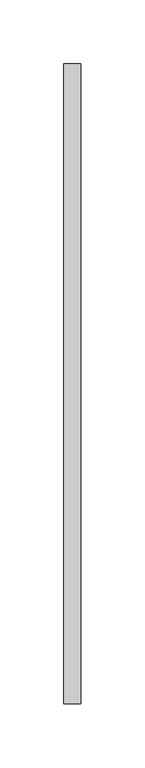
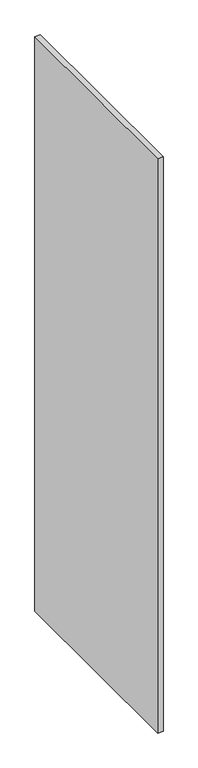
"""IFC4 building model written with IfcOpenShell, lengths in millimetres: furniture geometry, Lockers-Bay-Duracube-Duraloc : LWM-1900h x 500d x 400w @ 470h Wall."""

from ifc_helpers import new_model, si_unit, frame, origin, place, context, project, spatial, polyline, outline, extrude, source, transform, mapped, element, save


def furniture_8214ae09(model_context):
    return source(origin(), model_context, "Body", "SweptSolid", [
        extrude(outline(polyline([(400.0, 250.0), (413.0, 250.0), (413.0, -250.0), (400.0, -250.0), (400.0, 250.0)])), frame((0.0, 0.0, 470.0), z_axis=(0.0, 0.0, 1.0), x_axis=(1.0, 0.0, 0.0)), (0.0, 0.0, 1.0), 1430.0),
    ])


if __name__ == "__main__":
    model = new_model("IFC4")
    model_context = context("Model", 3, world=origin())
    ifc_project = project(units=[si_unit("LENGTHUNIT", "METRE", prefix="MILLI")], contexts=[model_context])
    site = spatial("IfcSite", under=ifc_project)
    building = spatial("IfcBuilding", under=site)
    placement = place(None, origin())
    furniture_shape = furniture_8214ae09(model_context)
    element("IfcFurniture", 1, ObjectType="Lockers-Bay-Duracube-Duraloc : LWM-1900h x 500d x 400w @ 470h Wall", at=placement, inside=building, context=model_context, shape_type="MappedRepresentation", body=[
        mapped(furniture_shape, transform((0.0, 0.0, 0.0), x_axis=(1.0, 0.0, 0.0), y_axis=(0.0, 1.0, 0.0), z_axis=(0.0, 0.0, 1.0))),
    ])
    save(model, "model.ifc")
